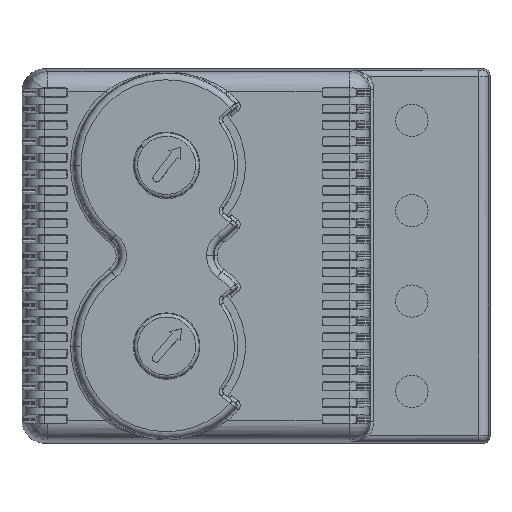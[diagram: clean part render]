
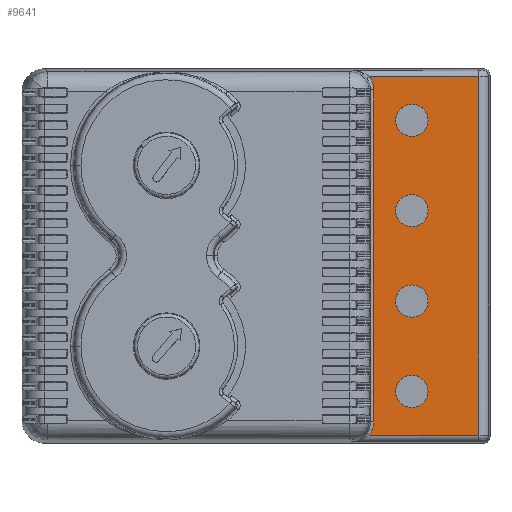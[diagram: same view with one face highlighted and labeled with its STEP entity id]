
A CAD part, top view. The second image highlights one B-rep face of the part: STEP entity #9641.
In plain terms, the highlighted planar face has unit normal (0, 0, 1).
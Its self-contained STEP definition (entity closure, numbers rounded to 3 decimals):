
#654 = VERTEX_POINT ( 'NONE', #2847 ) ;
#674 = CARTESIAN_POINT ( 'NONE',  ( 28.9, -7., 8. ) ) ;
#1061 = LINE ( 'NONE', #6649, #4850 ) ;
#1084 = AXIS2_PLACEMENT_3D ( 'NONE', #7698, #26372, #18037 ) ;
#1109 = ORIENTED_EDGE ( 'NONE', *, *, #30129, .F. ) ;
#1368 = EDGE_CURVE ( 'NONE', #5126, #654, #33191, .T. ) ;
#1556 = CARTESIAN_POINT ( 'NONE',  ( 19.82, 27.755, 8. ) ) ;
#1621 = DIRECTION ( 'NONE',  ( 1., 0., 0. ) ) ;
#1747 = DIRECTION ( 'NONE',  ( 1., 0., 0. ) ) ;
#1769 = CIRCLE ( 'NONE', #20577, 2.5 ) ;
#1799 = CARTESIAN_POINT ( 'NONE',  ( 26.4, -7., 8. ) ) ;
#1895 = CARTESIAN_POINT ( 'NONE',  ( 28.9, -21., 8. ) ) ;
#1907 = CARTESIAN_POINT ( 'NONE',  ( 19.82, 27.755, 8. ) ) ;
#2262 = VECTOR ( 'NONE', #24236, 1000. ) ;
#2330 = EDGE_LOOP ( 'NONE', ( #29477, #14055, #22925, #10789, #27951, #24543 ) ) ;
#2465 = VECTOR ( 'NONE', #1747, 1000. ) ;
#2692 = EDGE_CURVE ( 'NONE', #5835, #24306, #17747, .T. ) ;
#2847 = CARTESIAN_POINT ( 'NONE',  ( 23.9, -7., 8. ) ) ;
#3054 = DIRECTION ( 'NONE',  ( 0., 0., 1. ) ) ;
#3397 = AXIS2_PLACEMENT_3D ( 'NONE', #20613, #7666, #25981 ) ;
#3727 = DIRECTION ( 'NONE',  ( 1., 0., 0. ) ) ;
#4075 = ORIENTED_EDGE ( 'NONE', *, *, #1368, .F. ) ;
#4537 = FACE_BOUND ( 'NONE', #5433, .T. ) ;
#4704 = FACE_OUTER_BOUND ( 'NONE', #2330, .T. ) ;
#4850 = VECTOR ( 'NONE', #23038, 1000. ) ;
#5126 = VERTEX_POINT ( 'NONE', #674 ) ;
#5392 = CARTESIAN_POINT ( 'NONE',  ( 20.483, 25.706, 8. ) ) ;
#5433 = EDGE_LOOP ( 'NONE', ( #13093, #31956 ) ) ;
#5576 = CARTESIAN_POINT ( 'NONE',  ( 28.9, 7., 8. ) ) ;
#5702 = EDGE_CURVE ( 'NONE', #11127, #34052, #17157, .T. ) ;
#5835 = VERTEX_POINT ( 'NONE', #28017 ) ;
#6497 = CARTESIAN_POINT ( 'NONE',  ( 32.272, -27.755, 8. ) ) ;
#6528 = EDGE_LOOP ( 'NONE', ( #23741, #27419 ) ) ;
#6649 = CARTESIAN_POINT ( 'NONE',  ( 36.772, 28.721, 8. ) ) ;
#7169 = ORIENTED_EDGE ( 'NONE', *, *, #2692, .F. ) ;
#7226 = AXIS2_PLACEMENT_3D ( 'NONE', #1799, #20143, #1621 ) ;
#7243 = CARTESIAN_POINT ( 'NONE',  ( 28.9, 21., 8. ) ) ;
#7666 = DIRECTION ( 'NONE',  ( 0., 0., 1. ) ) ;
#7698 = CARTESIAN_POINT ( 'NONE',  ( 26.4, -21., 8. ) ) ;
#7834 = DIRECTION ( 'NONE',  ( 1., 0., 0. ) ) ;
#8259 = LINE ( 'NONE', #18784, #33325 ) ;
#8324 = VERTEX_POINT ( 'NONE', #5576 ) ;
#8362 = CIRCLE ( 'NONE', #3397, 2.5 ) ;
#8497 = CARTESIAN_POINT ( 'NONE',  ( 26.4, 7., 8. ) ) ;
#9432 = AXIS2_PLACEMENT_3D ( 'NONE', #17189, #24992, #3727 ) ;
#9532 = CARTESIAN_POINT ( 'NONE',  ( 20.483, 25.706, 8. ) ) ;
#9641 = ADVANCED_FACE ( 'NONE', ( #31543, #20253, #4537, #23037, #4704 ), #33444, .T. ) ;
#10416 = DIRECTION ( 'NONE',  ( 0., 0., 1. ) ) ;
#10789 = ORIENTED_EDGE ( 'NONE', *, *, #30257, .T. ) ;
#11127 = VERTEX_POINT ( 'NONE', #18069 ) ;
#11356 = EDGE_CURVE ( 'NONE', #19850, #8324, #25456, .T. ) ;
#11864 = CARTESIAN_POINT ( 'NONE',  ( 36.772, -27.755, 8. ) ) ;
#12125 = CARTESIAN_POINT ( 'NONE',  ( 20.255, 27.154, 8. ) ) ;
#13006 = CARTESIAN_POINT ( 'NONE',  ( -34., 29., 8. ) ) ;
#13093 = ORIENTED_EDGE ( 'NONE', *, *, #30280, .F. ) ;
#13648 = CARTESIAN_POINT ( 'NONE',  ( 20.483, -26.448, 8. ) ) ;
#14055 = ORIENTED_EDGE ( 'NONE', *, *, #15262, .T. ) ;
#14838 = EDGE_CURVE ( 'NONE', #24306, #5835, #1769, .T. ) ;
#15262 = EDGE_CURVE ( 'NONE', #30683, #20412, #8259, .T. ) ;
#15869 = VERTEX_POINT ( 'NONE', #1895 ) ;
#15921 = CARTESIAN_POINT ( 'NONE',  ( 20.483, -25.706, 8. ) ) ;
#15963 = VERTEX_POINT ( 'NONE', #5392 ) ;
#16001 = CIRCLE ( 'NONE', #23725, 2.5 ) ;
#17157 = LINE ( 'NONE', #6497, #2465 ) ;
#17189 = CARTESIAN_POINT ( 'NONE',  ( 26.4, 7., 8. ) ) ;
#17414 = EDGE_CURVE ( 'NONE', #32248, #11127, #17682, .T. ) ;
#17682 =( BOUNDED_CURVE ( )  B_SPLINE_CURVE ( 3, ( #26627, #13648, #23528, #18654 ),
 .UNSPECIFIED., .F., .T. ) 
 B_SPLINE_CURVE_WITH_KNOTS ( ( 4, 4 ),
 ( 5.498, 6.124 ),
 .UNSPECIFIED. ) 
 CURVE ( )  GEOMETRIC_REPRESENTATION_ITEM ( )  RATIONAL_B_SPLINE_CURVE ( ( 1., 0.968, 0.968, 1. ) ) 
 REPRESENTATION_ITEM ( '' )  );
#17747 = CIRCLE ( 'NONE', #19416, 2.5 ) ;
#18037 = DIRECTION ( 'NONE',  ( 1., 0., 0. ) ) ;
#18069 = CARTESIAN_POINT ( 'NONE',  ( 19.82, -27.755, 8. ) ) ;
#18654 = CARTESIAN_POINT ( 'NONE',  ( 19.82, -27.755, 8. ) ) ;
#18784 = CARTESIAN_POINT ( 'NONE',  ( 17.002, 27.755, 8. ) ) ;
#19416 = AXIS2_PLACEMENT_3D ( 'NONE', #26939, #3054, #24162 ) ;
#19418 = AXIS2_PLACEMENT_3D ( 'NONE', #8497, #29626, #27181 ) ;
#19451 = DIRECTION ( 'NONE',  ( 1., 0., 0. ) ) ;
#19846 = CARTESIAN_POINT ( 'NONE',  ( 36.772, 27.755, 8. ) ) ;
#19850 = VERTEX_POINT ( 'NONE', #31301 ) ;
#20035 = CARTESIAN_POINT ( 'NONE',  ( 26.4, -21., 8. ) ) ;
#20143 = DIRECTION ( 'NONE',  ( 0., 0., 1. ) ) ;
#20253 = FACE_BOUND ( 'NONE', #20971, .T. ) ;
#20412 = VERTEX_POINT ( 'NONE', #1907 ) ;
#20577 = AXIS2_PLACEMENT_3D ( 'NONE', #29853, #27071, #19451 ) ;
#20613 = CARTESIAN_POINT ( 'NONE',  ( 26.4, -7., 8. ) ) ;
#20971 = EDGE_LOOP ( 'NONE', ( #4075, #1109 ) ) ;
#21440 = EDGE_CURVE ( 'NONE', #34052, #30683, #1061, .T. ) ;
#21611 = CIRCLE ( 'NONE', #19418, 2.5 ) ;
#22925 = ORIENTED_EDGE ( 'NONE', *, *, #29557, .T. ) ;
#23037 = FACE_BOUND ( 'NONE', #30546, .T. ) ;
#23038 = DIRECTION ( 'NONE',  ( 0., 1., 0. ) ) ;
#23081 = ORIENTED_EDGE ( 'NONE', *, *, #14838, .F. ) ;
#23528 = CARTESIAN_POINT ( 'NONE',  ( 20.255, -27.154, 8. ) ) ;
#23725 = AXIS2_PLACEMENT_3D ( 'NONE', #20035, #30621, #24909 ) ;
#23741 = ORIENTED_EDGE ( 'NONE', *, *, #27103, .F. ) ;
#23942 = CARTESIAN_POINT ( 'NONE',  ( 23.9, -21., 8. ) ) ;
#24162 = DIRECTION ( 'NONE',  ( 1., 0., 0. ) ) ;
#24236 = DIRECTION ( 'NONE',  ( 0., -1., 0. ) ) ;
#24306 = VERTEX_POINT ( 'NONE', #7243 ) ;
#24543 = ORIENTED_EDGE ( 'NONE', *, *, #5702, .T. ) ;
#24909 = DIRECTION ( 'NONE',  ( 1., 0., 0. ) ) ;
#24929 = VERTEX_POINT ( 'NONE', #23942 ) ;
#24992 = DIRECTION ( 'NONE',  ( 0., 0., 1. ) ) ;
#25456 = CIRCLE ( 'NONE', #9432, 2.5 ) ;
#25981 = DIRECTION ( 'NONE',  ( 1., 0., 0. ) ) ;
#26372 = DIRECTION ( 'NONE',  ( 0., 0., 1. ) ) ;
#26627 = CARTESIAN_POINT ( 'NONE',  ( 20.483, -25.706, 8. ) ) ;
#26773 = DIRECTION ( 'NONE',  ( -1., 0., 0. ) ) ;
#26848 = LINE ( 'NONE', #27009, #2262 ) ;
#26939 = CARTESIAN_POINT ( 'NONE',  ( 26.4, 21., 8. ) ) ;
#27009 = CARTESIAN_POINT ( 'NONE',  ( 20.483, 29., 8. ) ) ;
#27071 = DIRECTION ( 'NONE',  ( 0., 0., 1. ) ) ;
#27103 = EDGE_CURVE ( 'NONE', #15869, #24929, #29308, .T. ) ;
#27181 = DIRECTION ( 'NONE',  ( 1., 0., 0. ) ) ;
#27419 = ORIENTED_EDGE ( 'NONE', *, *, #28222, .F. ) ;
#27951 = ORIENTED_EDGE ( 'NONE', *, *, #17414, .T. ) ;
#28017 = CARTESIAN_POINT ( 'NONE',  ( 23.9, 21., 8. ) ) ;
#28222 = EDGE_CURVE ( 'NONE', #24929, #15869, #16001, .T. ) ;
#28427 =( BOUNDED_CURVE ( )  B_SPLINE_CURVE ( 3, ( #1556, #12125, #33245, #9532 ),
 .UNSPECIFIED., .F., .T. ) 
 B_SPLINE_CURVE_WITH_KNOTS ( ( 4, 4 ),
 ( 0.159, 0.785 ),
 .UNSPECIFIED. ) 
 CURVE ( )  GEOMETRIC_REPRESENTATION_ITEM ( )  RATIONAL_B_SPLINE_CURVE ( ( 1., 0.968, 0.968, 1. ) ) 
 REPRESENTATION_ITEM ( '' )  );
#29125 = AXIS2_PLACEMENT_3D ( 'NONE', #13006, #10416, #7834 ) ;
#29308 = CIRCLE ( 'NONE', #1084, 2.5 ) ;
#29477 = ORIENTED_EDGE ( 'NONE', *, *, #21440, .T. ) ;
#29557 = EDGE_CURVE ( 'NONE', #20412, #15963, #28427, .T. ) ;
#29626 = DIRECTION ( 'NONE',  ( 0., 0., 1. ) ) ;
#29853 = CARTESIAN_POINT ( 'NONE',  ( 26.4, 21., 8. ) ) ;
#30129 = EDGE_CURVE ( 'NONE', #654, #5126, #8362, .T. ) ;
#30257 = EDGE_CURVE ( 'NONE', #15963, #32248, #26848, .T. ) ;
#30280 = EDGE_CURVE ( 'NONE', #8324, #19850, #21611, .T. ) ;
#30546 = EDGE_LOOP ( 'NONE', ( #23081, #7169 ) ) ;
#30621 = DIRECTION ( 'NONE',  ( 0., 0., 1. ) ) ;
#30683 = VERTEX_POINT ( 'NONE', #19846 ) ;
#31301 = CARTESIAN_POINT ( 'NONE',  ( 23.9, 7., 8. ) ) ;
#31543 = FACE_BOUND ( 'NONE', #6528, .T. ) ;
#31956 = ORIENTED_EDGE ( 'NONE', *, *, #11356, .F. ) ;
#32248 = VERTEX_POINT ( 'NONE', #15921 ) ;
#33191 = CIRCLE ( 'NONE', #7226, 2.5 ) ;
#33245 = CARTESIAN_POINT ( 'NONE',  ( 20.483, 26.448, 8. ) ) ;
#33325 = VECTOR ( 'NONE', #26773, 1000. ) ;
#33444 = PLANE ( 'NONE',  #29125 ) ;
#34052 = VERTEX_POINT ( 'NONE', #11864 ) ;
